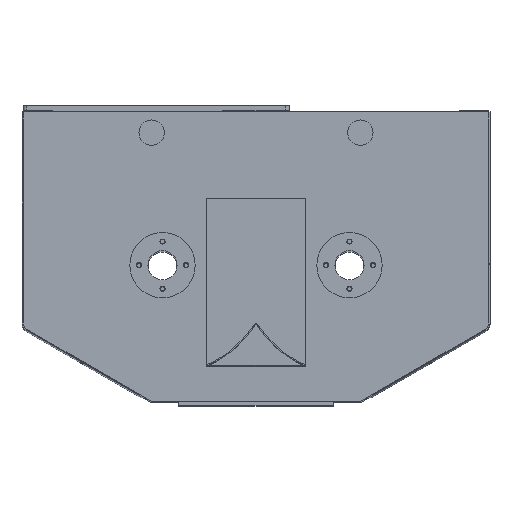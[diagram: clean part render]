
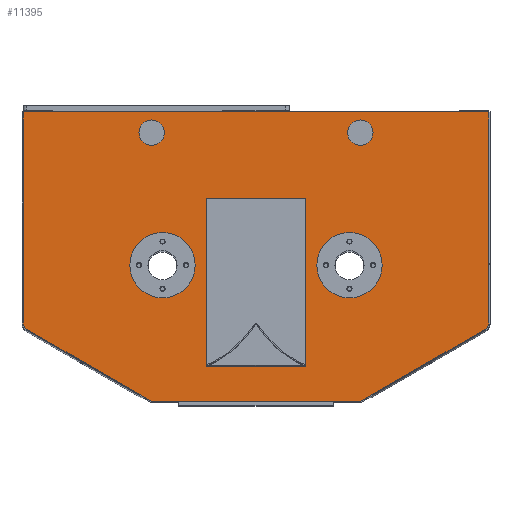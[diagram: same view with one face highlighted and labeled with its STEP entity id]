
A CAD part, top view. The second image highlights one B-rep face of the part: STEP entity #11395.
In plain terms, the highlighted planar face has unit normal (0, 0, 1) as drawn and (0, 0, -1) by its records, which use the part's own axes.
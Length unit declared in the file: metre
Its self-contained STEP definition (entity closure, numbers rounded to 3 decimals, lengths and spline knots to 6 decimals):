
#11244=CARTESIAN_POINT('',(0.879,-0.159071,-0.03));
#11245=DIRECTION('',(0.,0.,1.));
#11246=DIRECTION('',(1.,-0.,0.));
#11247=AXIS2_PLACEMENT_3D('',#11244,#11245,#11246);
#11248=PLANE('',#11247);
#11249=CARTESIAN_POINT('',(0.120001,0.185,-0.03));
#11250=VERTEX_POINT('7026',#11249);
#11251=CARTESIAN_POINT('',(0.395,0.185,-0.03));
#11252=VERTEX_POINT('7030',#11251);
#11253=CARTESIAN_POINT('',(0.120001,0.185,-0.03));
#11254=DIRECTION('',(1.,0.,-0.));
#11255=VECTOR('',#11254,0.274999);
#11256=LINE('',#11253,#11255);
#11257=EDGE_CURVE('7133',#11250,#11252,#11256,.T.);
#11258=ORIENTED_EDGE('',*,*,#11257,.F.);
#11259=CARTESIAN_POINT('',(0.120001,-0.279,-0.03));
#11260=VERTEX_POINT('7118',#11259);
#11261=CARTESIAN_POINT('',(0.120001,-0.279,-0.03));
#11262=DIRECTION('',(0.,1.,0.));
#11263=VECTOR('',#11262,0.464);
#11264=LINE('',#11261,#11263);
#11265=EDGE_CURVE('7127',#11260,#11250,#11264,.T.);
#11266=ORIENTED_EDGE('',*,*,#11265,.F.);
#11267=CARTESIAN_POINT('',(0.395,-0.279,-0.03));
#11268=VERTEX_POINT('7028',#11267);
#11269=CARTESIAN_POINT('',(0.395,-0.279,-0.03));
#11270=DIRECTION('',(-1.,0.,0.));
#11271=VECTOR('',#11270,0.274999);
#11272=LINE('',#11269,#11271);
#11273=EDGE_CURVE('7131',#11268,#11260,#11272,.T.);
#11274=ORIENTED_EDGE('',*,*,#11273,.F.);
#11275=CARTESIAN_POINT('',(0.395,-0.279,-0.03));
#11276=DIRECTION('',(0.,1.,0.));
#11277=VECTOR('',#11276,0.464);
#11278=LINE('',#11275,#11277);
#11279=EDGE_CURVE('7025',#11268,#11252,#11278,.T.);
#11280=ORIENTED_EDGE('',*,*,#11279,.T.);
#11281=EDGE_LOOP('',(#11258,#11266,#11274,#11280));
#11282=FACE_BOUND('',#11281,.T.);
#11283=CARTESIAN_POINT('',(0.09,0.,-0.03));
#11284=VERTEX_POINT('',#11283);
#11285=CARTESIAN_POINT('',(0.,0.,-0.03));
#11286=DIRECTION('',(0.,0.,-1.));
#11287=DIRECTION('',(1.,0.,0.));
#11288=AXIS2_PLACEMENT_3D('',#11285,#11286,#11287);
#11289=CIRCLE('',#11288,0.09);
#11290=EDGE_CURVE('7149',#11284,#11284,#11289,.T.);
#11291=ORIENTED_EDGE('',*,*,#11290,.F.);
#11292=EDGE_LOOP('',(#11291));
#11293=FACE_BOUND('',#11292,.T.);
#11294=CARTESIAN_POINT('',(0.605,0.,-0.03));
#11295=VERTEX_POINT('',#11294);
#11296=CARTESIAN_POINT('',(0.515,0.,-0.03));
#11297=DIRECTION('',(0.,0.,-1.));
#11298=DIRECTION('',(1.,0.,0.));
#11299=AXIS2_PLACEMENT_3D('',#11296,#11297,#11298);
#11300=CIRCLE('',#11299,0.09);
#11301=EDGE_CURVE('7152',#11295,#11295,#11300,.T.);
#11302=ORIENTED_EDGE('',*,*,#11301,.F.);
#11303=EDGE_LOOP('',(#11302));
#11304=FACE_BOUND('',#11303,.T.);
#11305=CARTESIAN_POINT('',(-0.384,0.422,-0.03));
#11306=VERTEX_POINT('7066',#11305);
#11307=CARTESIAN_POINT('',(-0.384,-0.159071,-0.03));
#11308=VERTEX_POINT('7068',#11307);
#11309=CARTESIAN_POINT('',(-0.384,0.422,-0.03));
#11310=DIRECTION('',(0.,-1.,0.));
#11311=VECTOR('',#11310,0.581071);
#11312=LINE('',#11309,#11311);
#11313=EDGE_CURVE('7184',#11306,#11308,#11312,.T.);
#11314=ORIENTED_EDGE('',*,*,#11313,.F.);
#11315=CARTESIAN_POINT('',(0.899,0.422,-0.03));
#11316=VERTEX_POINT('7080',#11315);
#11317=CARTESIAN_POINT('',(0.899,0.422,-0.03));
#11318=DIRECTION('',(-1.,0.,0.));
#11319=VECTOR('',#11318,1.283);
#11320=LINE('',#11317,#11319);
#11321=EDGE_CURVE('7196',#11316,#11306,#11320,.T.);
#11322=ORIENTED_EDGE('',*,*,#11321,.F.);
#11323=CARTESIAN_POINT('',(0.899,-0.159071,-0.03));
#11324=VERTEX_POINT('7084',#11323);
#11325=CARTESIAN_POINT('',(0.899,-0.159071,-0.03));
#11326=DIRECTION('',(0.,1.,0.));
#11327=VECTOR('',#11326,0.581071);
#11328=LINE('',#11325,#11327);
#11329=EDGE_CURVE('7186',#11324,#11316,#11328,.T.);
#11330=ORIENTED_EDGE('',*,*,#11329,.F.);
#11331=CARTESIAN_POINT('',(0.889,-0.176392,-0.03));
#11332=VERTEX_POINT('7078',#11331);
#11333=CARTESIAN_POINT('',(0.879,-0.159071,-0.03));
#11334=DIRECTION('',(0.,0.,1.));
#11335=DIRECTION('',(1.,-0.,0.));
#11336=AXIS2_PLACEMENT_3D('',#11333,#11334,#11335);
#11337=CIRCLE('',#11336,0.02);
#11338=EDGE_CURVE('7166',#11332,#11324,#11337,.T.);
#11339=ORIENTED_EDGE('',*,*,#11338,.F.);
#11340=CARTESIAN_POINT('',(0.545,-0.375,-0.03));
#11341=VERTEX_POINT('7076',#11340);
#11342=CARTESIAN_POINT('',(0.545,-0.375,-0.03));
#11343=DIRECTION('',(0.866,0.5,0.));
#11344=VECTOR('',#11343,0.397217);
#11345=LINE('',#11342,#11344);
#11346=EDGE_CURVE('7170',#11341,#11332,#11345,.T.);
#11347=ORIENTED_EDGE('',*,*,#11346,.F.);
#11348=CARTESIAN_POINT('',(-0.03,-0.375,-0.03));
#11349=VERTEX_POINT('7062',#11348);
#11350=CARTESIAN_POINT('',(-0.03,-0.375,-0.03));
#11351=DIRECTION('',(1.,0.,-0.));
#11352=VECTOR('',#11351,0.575);
#11353=LINE('',#11350,#11352);
#11354=EDGE_CURVE('7198',#11349,#11341,#11353,.T.);
#11355=ORIENTED_EDGE('',*,*,#11354,.F.);
#11356=CARTESIAN_POINT('',(-0.374,-0.176392,-0.03));
#11357=VERTEX_POINT('7072',#11356);
#11358=CARTESIAN_POINT('',(-0.374,-0.176392,-0.03));
#11359=DIRECTION('',(0.866,-0.5,0.));
#11360=VECTOR('',#11359,0.397217);
#11361=LINE('',#11358,#11360);
#11362=EDGE_CURVE('7176',#11357,#11349,#11361,.T.);
#11363=ORIENTED_EDGE('',*,*,#11362,.F.);
#11364=CARTESIAN_POINT('',(-0.364,-0.159071,-0.03));
#11365=DIRECTION('',(0.,0.,1.));
#11366=DIRECTION('',(1.,-0.,0.));
#11367=AXIS2_PLACEMENT_3D('',#11364,#11365,#11366);
#11368=CIRCLE('',#11367,0.02);
#11369=EDGE_CURVE('7182',#11308,#11357,#11368,.T.);
#11370=ORIENTED_EDGE('',*,*,#11369,.F.);
#11371=EDGE_LOOP('',(#11314,#11322,#11330,#11339,#11347,#11355,#11363,#11370));
#11372=FACE_BOUND('',#11371,.T.);
#11373=CARTESIAN_POINT('',(0.58,0.365,-0.03));
#11374=VERTEX_POINT('',#11373);
#11375=CARTESIAN_POINT('',(0.545,0.365,-0.03));
#11376=DIRECTION('',(0.,0.,1.));
#11377=DIRECTION('',(1.,0.,-0.));
#11378=AXIS2_PLACEMENT_3D('',#11375,#11376,#11377);
#11379=CIRCLE('',#11378,0.035);
#11380=EDGE_CURVE('7139',#11374,#11374,#11379,.T.);
#11381=ORIENTED_EDGE('',*,*,#11380,.T.);
#11382=EDGE_LOOP('',(#11381));
#11383=FACE_BOUND('',#11382,.T.);
#11384=CARTESIAN_POINT('',(0.005,0.365,-0.03));
#11385=VERTEX_POINT('',#11384);
#11386=CARTESIAN_POINT('',(-0.03,0.365,-0.03));
#11387=DIRECTION('',(0.,0.,1.));
#11388=DIRECTION('',(1.,0.,-0.));
#11389=AXIS2_PLACEMENT_3D('',#11386,#11387,#11388);
#11390=CIRCLE('',#11389,0.035);
#11391=EDGE_CURVE('7143',#11385,#11385,#11390,.T.);
#11392=ORIENTED_EDGE('',*,*,#11391,.T.);
#11393=EDGE_LOOP('',(#11392));
#11394=FACE_BOUND('',#11393,.T.);
#11395=ADVANCED_FACE('7240',(#11282,#11293,#11304,#11372,#11383,#11394),#11248,.F.);
